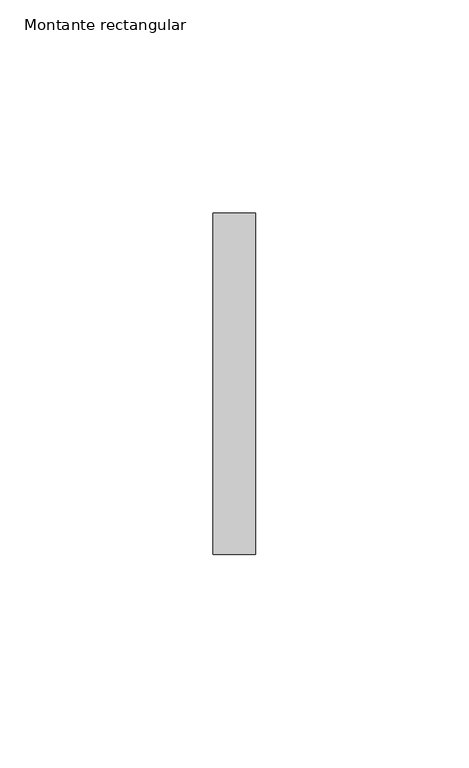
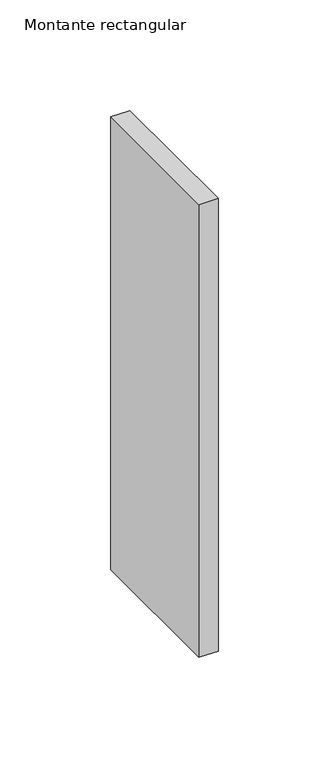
"""IFC4 building model written with IfcOpenShell, lengths in millimetres: member geometry, Montante rectangular : Junta de paves."""

from ifc_helpers import new_model, si_unit, frame, origin, place, context, project, spatial, polyline, outline, extrude, source, transform, mapped, element, save


def montante_rectangular_8270ee6e(model_context):
    return source(origin(), model_context, "Body", "SweptSolid", [
        extrude(outline(polyline([(-10.0, 40.0), (0.0, 40.0), (0.0, -40.0), (-10.0, -40.0), (-10.0, 40.0)])), frame((0.0, 0.0, -250.0), z_axis=(0.0, 0.0, 1.0), x_axis=(1.0, 0.0, 0.0)), (0.0, 0.0, 1.0), 250.0),
    ])


if __name__ == "__main__":
    model = new_model("IFC4")
    model_context = context("Model", 3, world=origin())
    ifc_project = project(units=[si_unit("LENGTHUNIT", "METRE", prefix="MILLI")], contexts=[model_context])
    site = spatial("IfcSite", under=ifc_project)
    building = spatial("IfcBuilding", under=site)
    placement = place(None, origin())
    montante_rectangular_shape = montante_rectangular_8270ee6e(model_context)
    element("IfcMember", 1, ObjectType="Montante rectangular : Junta de paves", at=placement, inside=building, context=model_context, shape_type="MappedRepresentation", body=[
        mapped(montante_rectangular_shape, transform((0.0, 0.0, 0.0), x_axis=(1.0, 0.0, 0.0), y_axis=(0.0, 1.0, 0.0), z_axis=(0.0, 0.0, 1.0))),
    ])
    save(model, "model.ifc")
